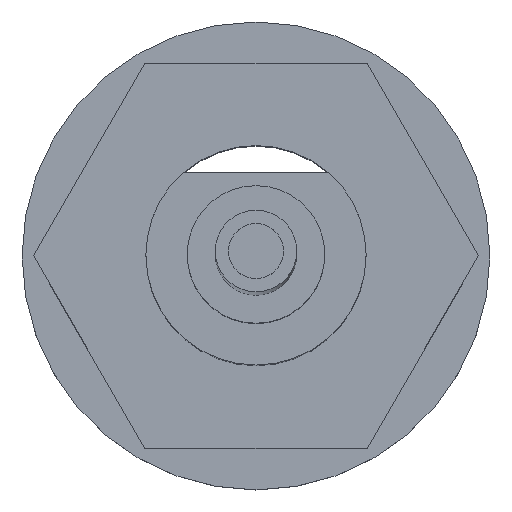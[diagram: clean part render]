
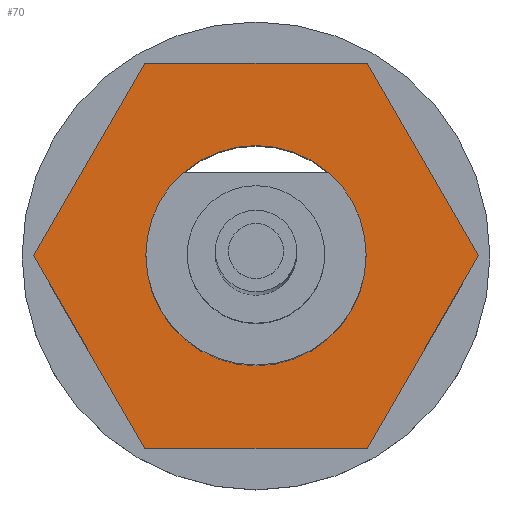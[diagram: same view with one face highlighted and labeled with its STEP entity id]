
A CAD part, top view. The second image highlights one B-rep face of the part: STEP entity #70.
In plain terms, the highlighted planar face has unit normal (0, 0, 1) as drawn and (-1, 0, 0) by its records, which use the part's own axes.
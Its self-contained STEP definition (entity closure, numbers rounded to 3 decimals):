
#53 = VERTEX_POINT ( 'NONE', #501 ) ;
#54 = ORIENTED_EDGE ( 'NONE', *, *, #55, .T. ) ;
#55 = EDGE_CURVE ( 'NONE', #53, #56, #500, .T. ) ;
#56 = VERTEX_POINT ( 'NONE', #496 ) ;
#57 = ORIENTED_EDGE ( 'NONE', *, *, #58, .T. ) ;
#58 = EDGE_CURVE ( 'NONE', #56, #74, #495, .T. ) ;
#59 = EDGE_LOOP ( 'NONE', ( #110, #111 ) ) ;
#60 = VERTEX_POINT ( 'NONE', #491 ) ;
#61 = VERTEX_POINT ( 'NONE', #490 ) ;
#70 = ADVANCED_FACE ( 'NONE', ( #474, #473 ), #538, .T. ) ;
#71 = EDGE_LOOP ( 'NONE', ( #72, #125, #128, #131, #54, #57 ) ) ;
#72 = ORIENTED_EDGE ( 'NONE', *, *, #73, .T. ) ;
#73 = EDGE_CURVE ( 'NONE', #74, #75, #533, .T. ) ;
#74 = VERTEX_POINT ( 'NONE', #529 ) ;
#75 = VERTEX_POINT ( 'NONE', #528 ) ;
#89 = EDGE_CURVE ( 'NONE', #60, #61, #514, .T. ) ;
#110 = ORIENTED_EDGE ( 'NONE', *, *, #89, .F. ) ;
#111 = ORIENTED_EDGE ( 'NONE', *, *, #112, .F. ) ;
#112 = EDGE_CURVE ( 'NONE', #61, #60, #541, .T. ) ;
#125 = ORIENTED_EDGE ( 'NONE', *, *, #126, .T. ) ;
#126 = EDGE_CURVE ( 'NONE', #75, #127, #580, .T. ) ;
#127 = VERTEX_POINT ( 'NONE', #576 ) ;
#128 = ORIENTED_EDGE ( 'NONE', *, *, #129, .T. ) ;
#129 = EDGE_CURVE ( 'NONE', #127, #130, #575, .T. ) ;
#130 = VERTEX_POINT ( 'NONE', #636 ) ;
#131 = ORIENTED_EDGE ( 'NONE', *, *, #132, .T. ) ;
#132 = EDGE_CURVE ( 'NONE', #130, #53, #635, .T. ) ;
#473 = FACE_BOUND ( 'NONE', #59, .T. ) ;
#474 = FACE_OUTER_BOUND ( 'NONE', #71, .T. ) ;
#490 = CARTESIAN_POINT ( 'NONE',  ( 47.8, 0., 2. ) ) ;
#491 = CARTESIAN_POINT ( 'NONE',  ( 47.8, 0., -2. ) ) ;
#492 = DIRECTION ( 'NONE',  ( 0., 0., -1. ) ) ;
#493 = VECTOR ( 'NONE', #492, 1000. ) ;
#494 = CARTESIAN_POINT ( 'NONE',  ( 47.8, 3.5, 2.021 ) ) ;
#495 = LINE ( 'NONE', #494, #493 ) ;
#496 = CARTESIAN_POINT ( 'NONE',  ( 47.8, 3.5, 2.021 ) ) ;
#497 = DIRECTION ( 'NONE',  ( 0., 0.866, -0.5 ) ) ;
#498 = VECTOR ( 'NONE', #497, 1000. ) ;
#499 = CARTESIAN_POINT ( 'NONE',  ( 47.8, 0., 4.041 ) ) ;
#500 = LINE ( 'NONE', #499, #498 ) ;
#501 = CARTESIAN_POINT ( 'NONE',  ( 47.8, 0., 4.041 ) ) ;
#511 = DIRECTION ( 'NONE',  ( 0., 0., 1. ) ) ;
#512 = DIRECTION ( 'NONE',  ( -1., 0., 0. ) ) ;
#513 = AXIS2_PLACEMENT_3D ( 'NONE', #519, #512, #511 ) ;
#514 = CIRCLE ( 'NONE', #513, 2. ) ;
#519 = CARTESIAN_POINT ( 'NONE',  ( 47.8, 0., 0. ) ) ;
#528 = CARTESIAN_POINT ( 'NONE',  ( 47.8, 0., -4.041 ) ) ;
#529 = CARTESIAN_POINT ( 'NONE',  ( 47.8, 3.5, -2.021 ) ) ;
#530 = DIRECTION ( 'NONE',  ( 0., -0.866, -0.5 ) ) ;
#531 = VECTOR ( 'NONE', #530, 1000. ) ;
#532 = CARTESIAN_POINT ( 'NONE',  ( 47.8, 3.5, -2.021 ) ) ;
#533 = LINE ( 'NONE', #532, #531 ) ;
#534 = DIRECTION ( 'NONE',  ( 0., 0., 1. ) ) ;
#535 = DIRECTION ( 'NONE',  ( -1., 0., 0. ) ) ;
#536 = CARTESIAN_POINT ( 'NONE',  ( 47.8, 0., -4.041 ) ) ;
#537 = AXIS2_PLACEMENT_3D ( 'NONE', #536, #535, #534 ) ;
#538 = PLANE ( 'NONE',  #537 ) ;
#539 = CARTESIAN_POINT ( 'NONE',  ( 47.8, 0., 0. ) ) ;
#540 = AXIS2_PLACEMENT_3D ( 'NONE', #539, #604, #603 ) ;
#541 = CIRCLE ( 'NONE', #540, 2. ) ;
#572 = DIRECTION ( 'NONE',  ( 0., 0., 1. ) ) ;
#573 = VECTOR ( 'NONE', #572, 1000. ) ;
#574 = CARTESIAN_POINT ( 'NONE',  ( 47.8, -3.5, -2.021 ) ) ;
#575 = LINE ( 'NONE', #574, #573 ) ;
#576 = CARTESIAN_POINT ( 'NONE',  ( 47.8, -3.5, -2.021 ) ) ;
#577 = DIRECTION ( 'NONE',  ( 0., -0.866, 0.5 ) ) ;
#578 = VECTOR ( 'NONE', #577, 1000. ) ;
#579 = CARTESIAN_POINT ( 'NONE',  ( 47.8, 0., -4.041 ) ) ;
#580 = LINE ( 'NONE', #579, #578 ) ;
#603 = DIRECTION ( 'NONE',  ( 0., 0., 1. ) ) ;
#604 = DIRECTION ( 'NONE',  ( -1., 0., 0. ) ) ;
#632 = DIRECTION ( 'NONE',  ( 0., 0.866, 0.5 ) ) ;
#633 = VECTOR ( 'NONE', #632, 1000. ) ;
#634 = CARTESIAN_POINT ( 'NONE',  ( 47.8, -3.5, 2.021 ) ) ;
#635 = LINE ( 'NONE', #634, #633 ) ;
#636 = CARTESIAN_POINT ( 'NONE',  ( 47.8, -3.5, 2.021 ) ) ;
